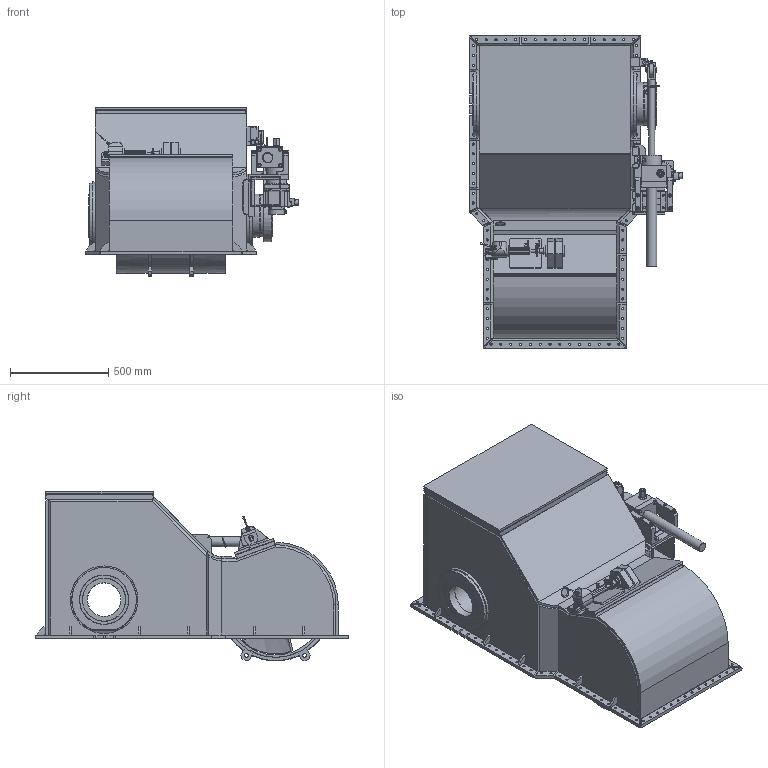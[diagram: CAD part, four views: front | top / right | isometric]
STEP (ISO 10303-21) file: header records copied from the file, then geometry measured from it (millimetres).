
FILE_DESCRIPTION(/* description */ (''),/* implementation_level */ '2;1');
FILE_NAME(/* name */ 'Q:\THRUSTERS\THRUSTER SALES & SUPPORT DOCS\THRUSTER Sales\E-S\E-0500-S\E-0500-S-RETRACTED.stp',/* time_stamp */ '2021-03-24T13:38:18+00:00',/* author */ ('Barney.Webborn'),/* organization */ (''),/* preprocessor_version */ 'ST-DEVELOPER v17.2',/* originating_system */ 'Autodesk Inventor 2019',/* authorisation */ '');
FILE_SCHEMA (('AUTOMOTIVE_DESIGN { 1 0 10303 214 3 1 1 }'));
Length unit declared in the file: millimetre
Products named in the file (1): E-0500-S_Shrinkwrap_1
Bounding box: 1084.99 x 1588 x 863.09 mm (x, y, z)
Volume: 120422526.2 mm3; surface area: 16504122 mm2
Topology: 3 solids, 3 shells, 2533 faces, 6824 edges, 4423 vertices
Faces by surface type: plane 1489, cylinder 711, cone 203, torus 56, bspline 52, sphere 22
Full cylindrical faces by diameter (mm): 2 x2, 3 x3, 5.5 x8, 5.6 x4, 5.9 x12, 6 x5, 7 x8, 7.2 x2, 7.6 x8, 8 x9, 8.5 x8, 9 x1, 9.2 x8, 10 x2, 10.3 x55, 10.5 x36, 10.8 x6, 11 x99, 12 x4, 12.3 x1, 15 x1, 15.3 x1, 16 x6, 17 x32, 17.29 x1, 18.25 x2, 18.376 x2, 20 x5, 22 x3, 22.5 x1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
Entity records: 86364 total; most frequent: CARTESIAN_POINT 18584, DIRECTION 13656, ORIENTED_EDGE 13470, EDGE_CURVE 6735, AXIS2_PLACEMENT_3D 4831, VERTEX_POINT 4421, LINE 3994, VECTOR 3994
